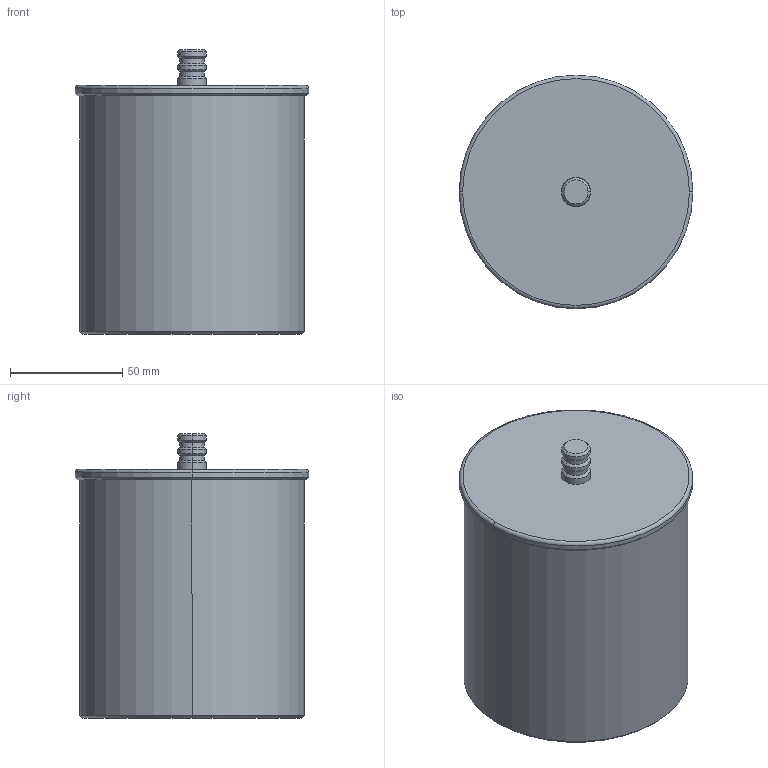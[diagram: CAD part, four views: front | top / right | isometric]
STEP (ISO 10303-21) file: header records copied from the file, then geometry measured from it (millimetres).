
FILE_DESCRIPTION(('STEP AP214'),'1');
FILE_NAME('qtr2m.stp','2024-04-08T04:11:06',(' '),(' '),'Spatial InterOp 3D',' ',' ');
FILE_SCHEMA(('AUTOMOTIVE_DESIGN { 1 0 10303 214 1 1 1 1 }'));
Length unit declared in the file: metre
Products named in the file (1): out
Bounding box: 104 x 104 x 126.83 mm (x, y, z)
Volume: 144210.8 mm3; surface area: 158795.4 mm2
Topology: 3 solids, 3 shells, 81 faces, 184 edges, 114 vertices
Faces by surface type: plane 35, cylinder 28, cone 16, torus 2
Entity records: 2335 total; most frequent: DIRECTION 444, CARTESIAN_POINT 382, ORIENTED_EDGE 368, EDGE_CURVE 184, AXIS2_PLACEMENT_3D 176, VERTEX_POINT 114, LINE 92, CIRCLE 92
